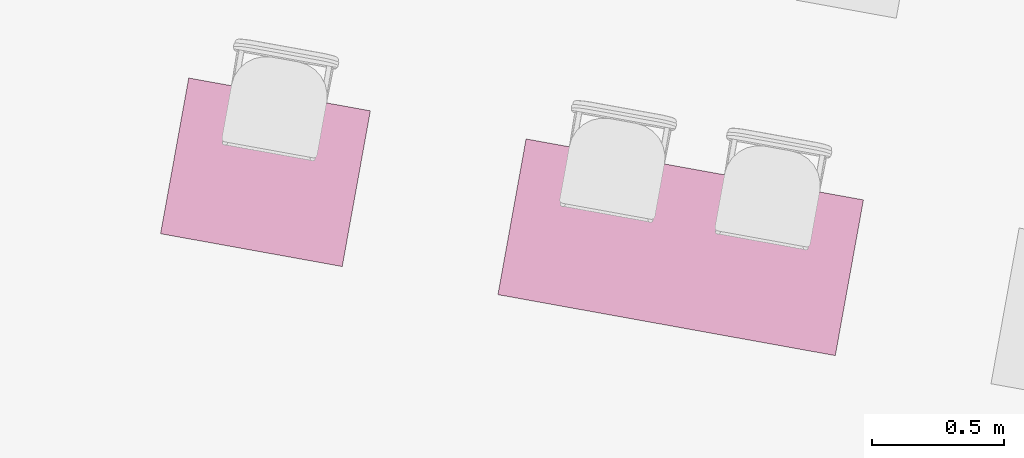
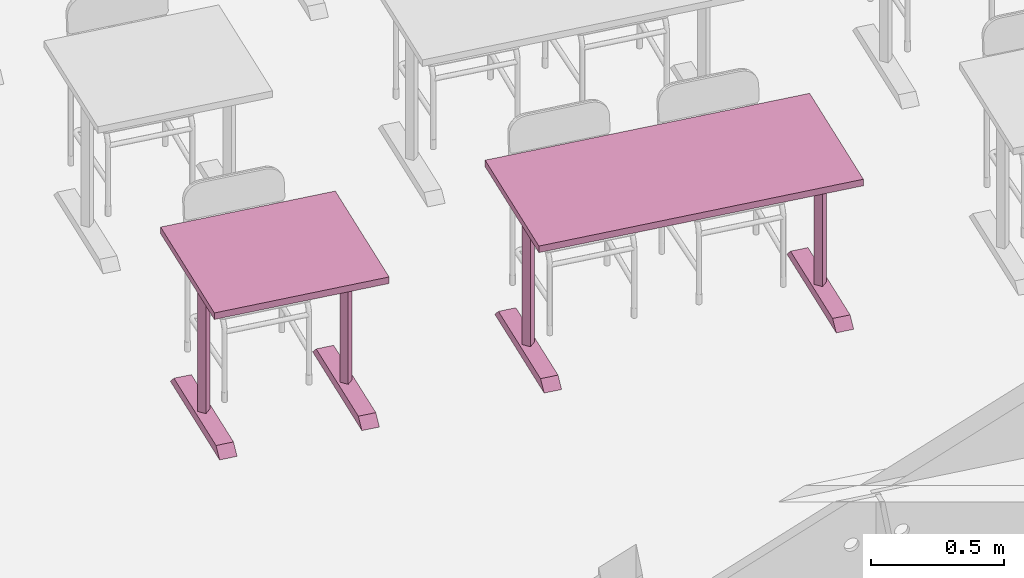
# One storey, part 3 of 79: 2 furnishings.
"""IFC2X3 building model written with IfcOpenShell, lengths in metres."""

from ifc_helpers import new_model, entity, si_unit, converted_unit, derived_unit, money_unit, direction, frame, origin_with_axes, place, context, subcontext, project, spatial, faceted_brep, source, transform, mapped, material, type_object, element, save


model = new_model("IFC2X3")

# Units and contexts
model_context = context("Model", 3, precision=1e-05, world=origin_with_axes(), true_north=direction((0.0, 1.0)))
body_context = subcontext(model_context, "Body", "Model", "MODEL_VIEW")
ifc_project = project(units=[si_unit("LENGTHUNIT", "METRE"), si_unit("AREAUNIT", "SQUARE_METRE"), si_unit("VOLUMEUNIT", "CUBIC_METRE"), converted_unit("PLANEANGLEUNIT", "DEGREE", entity("IfcPlaneAngleMeasure", 0.0174532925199), si_unit("PLANEANGLEUNIT", "RADIAN"), dimensions=[0, 0, 0, 0, 0, 0, 0]), money_unit("CHF"), converted_unit("TIMEUNIT", "Year", entity("IfcTimeMeasure", 31556926.0), si_unit("TIMEUNIT", "SECOND"), dimensions=[0, 0, 1, 0, 0, 0, 0]), si_unit("MASSUNIT", "GRAM", prefix="KILO"), si_unit("THERMODYNAMICTEMPERATUREUNIT", "DEGREE_CELSIUS"), si_unit("LUMINOUSINTENSITYUNIT", "LUMEN"), si_unit("ENERGYUNIT", "JOULE", prefix="MEGA"), derived_unit("THERMALCONDUCTANCEUNIT", [(si_unit("POWERUNIT", "WATT"), 1), (si_unit("LENGTHUNIT", "METRE"), -1), (si_unit("THERMODYNAMICTEMPERATUREUNIT", "KELVIN"), -1)]), derived_unit("SPECIFICHEATCAPACITYUNIT", [(si_unit("ENERGYUNIT", "JOULE"), 1), (si_unit("MASSUNIT", "GRAM", prefix="KILO"), -1), (si_unit("THERMODYNAMICTEMPERATUREUNIT", "KELVIN"), -1)]), derived_unit("MASSDENSITYUNIT", [(si_unit("MASSUNIT", "GRAM", prefix="KILO"), 1), (si_unit("VOLUMEUNIT", "CUBIC_METRE"), -1)])], contexts=[model_context])

# Site, building, storey
site_placement = place(None, frame((0.0, 0.0, 0.0), z_axis=(0.0, 0.0, 1.0), x_axis=(-0.177771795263, -0.984071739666, 0.0)))
site = spatial("IfcSite", under=ifc_project, at=site_placement, Name="Site", CompositionType="ELEMENT")
building_placement = place(site_placement, origin_with_axes())
building = spatial("IfcBuilding", under=site, at=building_placement, Name="Bâtiment", CompositionType="ELEMENT")
storey_placement = place(building_placement, origin_with_axes())
storey = spatial("IfcBuildingStorey", under=building, at=storey_placement, Name="RDC", CompositionType="ELEMENT", Elevation=0.0)

# Furnishings
ifc_material = material(Name="Matériau de construction IFC")
furnishing_element_type = type_object("IfcFurnishingElementType", Name="Table de bureau 21")
shared_shape_1 = source(origin_with_axes(), body_context, "Body", "Brep", [
    faceted_brep([(0.0, 0.0, 0.7), (0.0, 0.0, 0.67), (1.3, 0.0, 0.67), (1.3, 0.0, 0.7), (0.0, 0.6, 0.7), (0.0, 0.6, 0.67), (1.3, 0.6, 0.67), (1.3, 0.6, 0.7)], [[[0, 1, 2, 3]], [[4, 5, 1, 0]], [[1, 5, 6, 2]], [[3, 2, 6, 7]], [[0, 3, 7, 4]], [[7, 6, 5, 4]]]),
    faceted_brep([(0.03, 0.025, 0.0), (0.03, 0.575, 0.0), (0.1, 0.575, 0.0), (0.1, 0.025, 0.0), (0.03, 0.065, 0.04), (0.03, 0.535, 0.04), (0.1, 0.535, 0.04), (0.1, 0.065, 0.04)], [[[0, 1, 2, 3]], [[1, 0, 4, 5]], [[1, 5, 6, 2]], [[3, 2, 6, 7]], [[4, 0, 3, 7]], [[5, 4, 7, 6]]]),
    faceted_brep([(0.09, 0.3, 0.04), (0.065, 0.275, 0.04), (0.04, 0.3, 0.04), (0.065, 0.325, 0.04), (0.09, 0.3, 0.62), (0.065, 0.275, 0.62), (0.04, 0.3, 0.62), (0.065, 0.325, 0.62)], [[[0, 1, 2, 3]], [[1, 0, 4, 5]], [[2, 1, 5, 6]], [[3, 2, 6, 7]], [[0, 3, 7, 4]], [[4, 7, 6, 5]]]),
    faceted_brep([(0.085, 0.3, 0.62), (0.065, 0.28, 0.62), (0.045, 0.3, 0.62), (0.065, 0.32, 0.62), (0.085, 0.3, 0.67), (0.065, 0.28, 0.67), (0.045, 0.3, 0.67), (0.065, 0.32, 0.67)], [[[0, 1, 2, 3]], [[1, 0, 4, 5]], [[2, 1, 5, 6]], [[3, 2, 6, 7]], [[0, 3, 7, 4]], [[4, 7, 6, 5]]]),
    faceted_brep([(1.2, 0.025, 0.0), (1.2, 0.575, 0.0), (1.27, 0.575, 0.0), (1.27, 0.025, 0.0), (1.2, 0.065, 0.04), (1.2, 0.535, 0.04), (1.27, 0.535, 0.04), (1.27, 0.065, 0.04)], [[[0, 1, 2, 3]], [[1, 0, 4, 5]], [[1, 5, 6, 2]], [[3, 2, 6, 7]], [[0, 3, 7, 4]], [[5, 4, 7, 6]]]),
    faceted_brep([(1.26, 0.3, 0.04), (1.235, 0.275, 0.04), (1.21, 0.3, 0.04), (1.235, 0.325, 0.04), (1.26, 0.3, 0.62), (1.235, 0.275, 0.62), (1.21, 0.3, 0.62), (1.235, 0.325, 0.62)], [[[0, 1, 2, 3]], [[1, 0, 4, 5]], [[2, 1, 5, 6]], [[3, 2, 6, 7]], [[0, 3, 7, 4]], [[4, 7, 6, 5]]]),
    faceted_brep([(1.255, 0.3, 0.62), (1.235, 0.28, 0.62), (1.215, 0.3, 0.62), (1.235, 0.32, 0.62), (1.255, 0.3, 0.67), (1.235, 0.28, 0.67), (1.215, 0.3, 0.67), (1.235, 0.32, 0.67)], [[[0, 1, 2, 3]], [[1, 0, 4, 5]], [[2, 1, 5, 6]], [[3, 2, 6, 7]], [[0, 3, 7, 4]], [[4, 7, 6, 5]]]),
])
furnishing_1_placement = place(storey_placement, frame((162.349841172, -153.577150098, 0.0), z_axis=(0.0, 0.0, 1.0), x_axis=(0.0, 1.0, 0.0)))
element("IfcFurnishingElement", 1, at=furnishing_1_placement, inside=storey, type_object=furnishing_element_type, material=ifc_material, Name="bureau-2pl", ObjectType="SYSTEM_FURNITURE", context=body_context, shape_type="MappedRepresentation", body=[
    mapped(shared_shape_1, transform((0.0, 0.0, 0.0))),
])
shared_shape_2 = source(origin_with_axes(), body_context, "Body", "Brep", [
    faceted_brep([(0.0, 0.0, 0.7), (0.0, 0.0, 0.67), (0.7, 0.0, 0.67), (0.7, 0.0, 0.7), (0.0, 0.6, 0.7), (0.0, 0.6, 0.67), (0.7, 0.6, 0.67), (0.7, 0.6, 0.7)], [[[0, 1, 2, 3]], [[4, 5, 1, 0]], [[1, 5, 6, 2]], [[3, 2, 6, 7]], [[0, 3, 7, 4]], [[7, 6, 5, 4]]]),
    faceted_brep([(0.03, 0.025, 0.0), (0.03, 0.575, 0.0), (0.1, 0.575, 0.0), (0.1, 0.025, 0.0), (0.03, 0.065, 0.04), (0.03, 0.535, 0.04), (0.1, 0.535, 0.04), (0.1, 0.065, 0.04)], [[[0, 1, 2, 3]], [[1, 0, 4, 5]], [[1, 5, 6, 2]], [[3, 2, 6, 7]], [[4, 0, 3, 7]], [[5, 4, 7, 6]]]),
    faceted_brep([(0.09, 0.3, 0.04), (0.065, 0.275, 0.04), (0.04, 0.3, 0.04), (0.065, 0.325, 0.04), (0.09, 0.3, 0.62), (0.065, 0.275, 0.62), (0.04, 0.3, 0.62), (0.065, 0.325, 0.62)], [[[0, 1, 2, 3]], [[1, 0, 4, 5]], [[2, 1, 5, 6]], [[3, 2, 6, 7]], [[0, 3, 7, 4]], [[4, 7, 6, 5]]]),
    faceted_brep([(0.085, 0.3, 0.62), (0.065, 0.28, 0.62), (0.045, 0.3, 0.62), (0.065, 0.32, 0.62), (0.085, 0.3, 0.67), (0.065, 0.28, 0.67), (0.045, 0.3, 0.67), (0.065, 0.32, 0.67)], [[[0, 1, 2, 3]], [[1, 0, 4, 5]], [[2, 1, 5, 6]], [[3, 2, 6, 7]], [[0, 3, 7, 4]], [[4, 7, 6, 5]]]),
    faceted_brep([(0.6, 0.025, 0.0), (0.6, 0.575, 0.0), (0.67, 0.575, 0.0), (0.67, 0.025, 0.0), (0.6, 0.065, 0.04), (0.6, 0.535, 0.04), (0.67, 0.535, 0.04), (0.67, 0.065, 0.04)], [[[0, 1, 2, 3]], [[1, 0, 4, 5]], [[1, 5, 6, 2]], [[3, 2, 6, 7]], [[4, 0, 3, 7]], [[5, 4, 7, 6]]]),
    faceted_brep([(0.66, 0.3, 0.04), (0.635, 0.275, 0.04), (0.61, 0.3, 0.04), (0.635, 0.325, 0.04), (0.66, 0.3, 0.62), (0.635, 0.275, 0.62), (0.61, 0.3, 0.62), (0.635, 0.325, 0.62)], [[[0, 1, 2, 3]], [[1, 0, 4, 5]], [[2, 1, 5, 6]], [[3, 2, 6, 7]], [[0, 3, 7, 4]], [[4, 7, 6, 5]]]),
    faceted_brep([(0.655, 0.3, 0.62), (0.635, 0.28, 0.62), (0.615, 0.3, 0.62), (0.635, 0.32, 0.62), (0.655, 0.3, 0.67), (0.635, 0.28, 0.67), (0.615, 0.3, 0.67), (0.635, 0.32, 0.67)], [[[0, 1, 2, 3]], [[1, 0, 4, 5]], [[2, 1, 5, 6]], [[3, 2, 6, 7]], [[0, 3, 7, 4]], [[4, 7, 6, 5]]]),
])
furnishing_2_placement = place(storey_placement, frame((162.349841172, -154.877150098, 0.0), z_axis=(0.0, 0.0, 1.0), x_axis=(0.0, 1.0, 0.0)))
element("IfcFurnishingElement", 2, at=furnishing_2_placement, inside=storey, type_object=furnishing_element_type, material=ifc_material, Name="bureau-2pl", ObjectType="SYSTEM_FURNITURE", context=body_context, shape_type="MappedRepresentation", body=[
    mapped(shared_shape_2, transform((0.0, 0.0, 0.0))),
])

save(model, "model.ifc")
